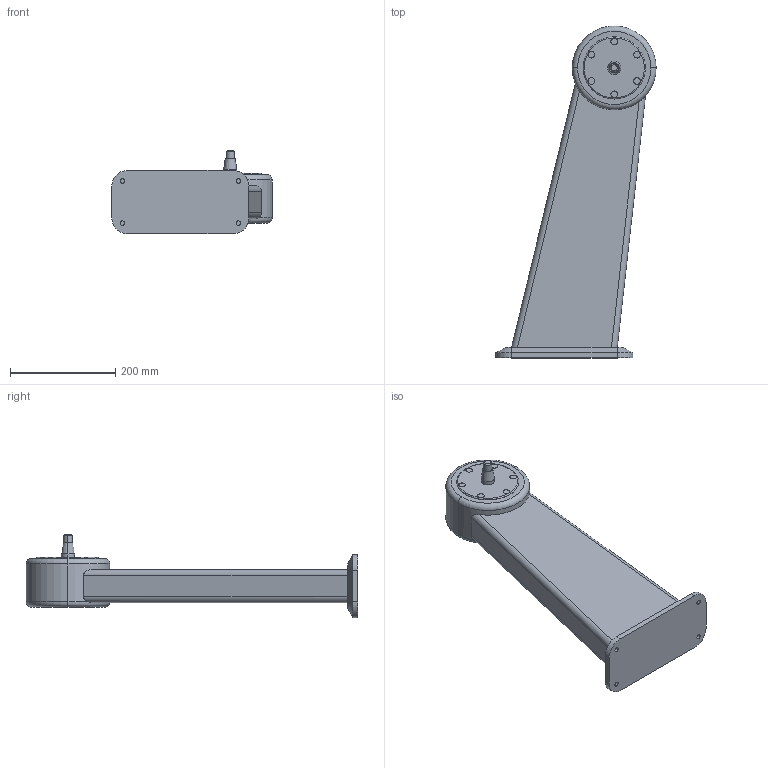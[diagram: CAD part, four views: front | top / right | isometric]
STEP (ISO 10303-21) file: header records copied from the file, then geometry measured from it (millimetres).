
FILE_DESCRIPTION (( 'STEP AP214' ), '1' );
FILE_NAME ('WP700_H550_-10.STEP', '2014-08-14T09:45:58', ( '' ), ( '' ), 'SwSTEP 2.0', 'SolidWorks 2014', '' );
FILE_SCHEMA (( 'AUTOMOTIVE_DESIGN' ));
Length unit declared in the file: millimetre
Products named in the file (1): WP700_H550_-10
Bounding box: 304.06 x 629.5 x 158.3 mm (x, y, z)
Volume: 7271789.2 mm3; surface area: 343552.9 mm2
Topology: 1 solids, 1 shells, 79 faces, 171 edges, 108 vertices
Faces by surface type: cylinder 36, plane 29, cone 8, torus 6
Entity records: 2294 total; most frequent: CARTESIAN_POINT 475, DIRECTION 408, ORIENTED_EDGE 342, EDGE_CURVE 171, AXIS2_PLACEMENT_3D 167, VERTEX_POINT 108, EDGE_LOOP 93, CIRCLE 87
